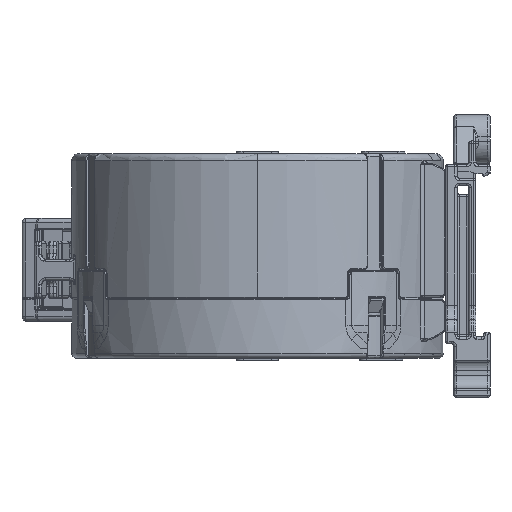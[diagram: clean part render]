
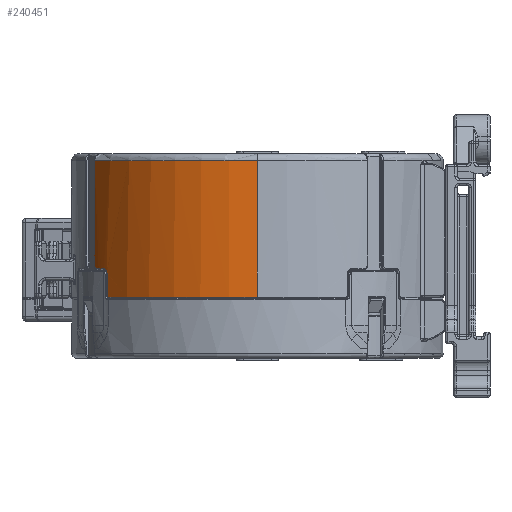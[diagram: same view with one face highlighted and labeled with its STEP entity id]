
A CAD part, left-side view. The second image highlights one B-rep face of the part: STEP entity #240451.
In plain terms, the highlighted cylindrical face has radius 39.75 mm (diameter 79.5 mm), a partial arc.
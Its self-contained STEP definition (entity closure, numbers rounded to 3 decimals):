
#1445 = ORIENTED_EDGE ( 'NONE', *, *, #116800, .F. ) ;
#1826 = EDGE_CURVE ( 'NONE', #68400, #108984, #129404, .T. ) ;
#2189 = CARTESIAN_POINT ( 'NONE',  ( -22.502, 32.768, -24.55 ) ) ;
#3410 = CARTESIAN_POINT ( 'NONE',  ( -23.196, 32.28, -25.026 ) ) ;
#3500 = EDGE_LOOP ( 'NONE', ( #1445, #48041, #21934, #157442, #106195, #93072, #241540, #17294, #40453 ) ) ;
#3899 = EDGE_CURVE ( 'NONE', #96343, #181146, #137368, .T. ) ;
#4368 = VECTOR ( 'NONE', #141027, 1000. ) ;
#4404 = DIRECTION ( 'NONE',  ( 0., 0., 1. ) ) ;
#5490 = DIRECTION ( 'NONE',  ( 0., 0., -1. ) ) ;
#11652 = CIRCLE ( 'NONE', #42868, 39.75 ) ;
#14710 = CARTESIAN_POINT ( 'NONE',  ( -39.75, 0., 0. ) ) ;
#16634 = AXIS2_PLACEMENT_3D ( 'NONE', #142604, #174401, #48732 ) ;
#16832 = CARTESIAN_POINT ( 'NONE',  ( -22.364, 32.862, -24.55 ) ) ;
#17294 = ORIENTED_EDGE ( 'NONE', *, *, #111116, .T. ) ;
#21640 = CARTESIAN_POINT ( 'NONE',  ( -23.052, 32.383, -24.854 ) ) ;
#21934 = ORIENTED_EDGE ( 'NONE', *, *, #164895, .T. ) ;
#23896 = VECTOR ( 'NONE', #189363, 1000. ) ;
#29774 = CARTESIAN_POINT ( 'NONE',  ( 0., 0., 0. ) ) ;
#31503 = CARTESIAN_POINT ( 'NONE',  ( -23.407, 32.127, -30.4 ) ) ;
#32694 = CARTESIAN_POINT ( 'NONE',  ( -23.43, 32.11, -30.532 ) ) ;
#33019 = EDGE_CURVE ( 'NONE', #49847, #125307, #86112, .T. ) ;
#40021 = CARTESIAN_POINT ( 'NONE',  ( -22.998, 32.422, -24.802 ) ) ;
#40453 = ORIENTED_EDGE ( 'NONE', *, *, #1826, .T. ) ;
#42868 = AXIS2_PLACEMENT_3D ( 'NONE', #156852, #4404, #189775 ) ;
#43627 = CARTESIAN_POINT ( 'NONE',  ( -19.617, 34.572, -24.531 ) ) ;
#44539 = DIRECTION ( 'NONE',  ( -1., 0., 0. ) ) ;
#48041 = ORIENTED_EDGE ( 'NONE', *, *, #155112, .T. ) ;
#48437 = CARTESIAN_POINT ( 'NONE',  ( -23.379, 32.148, -25.468 ) ) ;
#48732 = DIRECTION ( 'NONE',  ( 1., 0., 0. ) ) ;
#49847 = VERTEX_POINT ( 'NONE', #161223 ) ;
#53549 = CARTESIAN_POINT ( 'NONE',  ( -39.75, 0., -1.5 ) ) ;
#61895 = CARTESIAN_POINT ( 'NONE',  ( -19.202, 34.805, -24.194 ) ) ;
#62535 = CARTESIAN_POINT ( 'NONE',  ( -19.129, 34.845, 0. ) ) ;
#66428 = CYLINDRICAL_SURFACE ( 'NONE', #160402, 39.75 ) ;
#68400 = VERTEX_POINT ( 'NONE', #86550 ) ;
#73303 = DIRECTION ( 'NONE',  ( 0., 0., -1. ) ) ;
#77492 = DIRECTION ( 'NONE',  ( 1., 0., 0. ) ) ;
#77831 = CARTESIAN_POINT ( 'NONE',  ( -23.274, 32.224, -25.165 ) ) ;
#80168 = CARTESIAN_POINT ( 'NONE',  ( -19.385, 34.703, -24.401 ) ) ;
#82344 = CARTESIAN_POINT ( 'NONE',  ( -19.129, 34.845, -23.8 ) ) ;
#82570 = CARTESIAN_POINT ( 'NONE',  ( -19.702, 34.524, -24.55 ) ) ;
#86112 = LINE ( 'NONE', #123871, #4368 ) ;
#86550 = CARTESIAN_POINT ( 'NONE',  ( -23.614, 31.976, -30.65 ) ) ;
#87254 = CARTESIAN_POINT ( 'NONE',  ( -23.407, 32.127, -30.4 ) ) ;
#88795 = CARTESIAN_POINT ( 'NONE',  ( -23.507, 32.054, -30.624 ) ) ;
#90855 = B_SPLINE_CURVE_WITH_KNOTS ( 'NONE', 3,
 ( #191167, #2189, #114337, #225519, #207171, #40021, #21640, #3410, #77831, #48437, #159418, #122736 ),
 .UNSPECIFIED., .F., .F.,
 ( 4, 2, 2, 2, 2, 4 ),
 ( 0., 0., 0.001, 0.001, 0.001, 0.002 ),
 .UNSPECIFIED. ) ;
#91663 = CIRCLE ( 'NONE', #111086, 39.75 ) ;
#93072 = ORIENTED_EDGE ( 'NONE', *, *, #195763, .T. ) ;
#96343 = VERTEX_POINT ( 'NONE', #82344 ) ;
#106195 = ORIENTED_EDGE ( 'NONE', *, *, #140482, .T. ) ;
#108984 = VERTEX_POINT ( 'NONE', #186499 ) ;
#111086 = AXIS2_PLACEMENT_3D ( 'NONE', #142249, #131092, #77492 ) ;
#111116 = EDGE_CURVE ( 'NONE', #125307, #68400, #189694, .T. ) ;
#114337 = CARTESIAN_POINT ( 'NONE',  ( -22.636, 32.675, -24.582 ) ) ;
#116800 = EDGE_CURVE ( 'NONE', #176521, #108984, #202570, .T. ) ;
#122586 = CARTESIAN_POINT ( 'NONE',  ( -19.129, 34.845, -1.5 ) ) ;
#122736 = CARTESIAN_POINT ( 'NONE',  ( -23.407, 32.127, -25.8 ) ) ;
#123871 = CARTESIAN_POINT ( 'NONE',  ( -23.407, 32.127, 0. ) ) ;
#125307 = VERTEX_POINT ( 'NONE', #87254 ) ;
#125344 = CARTESIAN_POINT ( 'NONE',  ( -23.407, 32.127, -30.467 ) ) ;
#129404 = CIRCLE ( 'NONE', #16634, 39.75 ) ;
#131092 = DIRECTION ( 'NONE',  ( 0., 0., -1. ) ) ;
#136284 = CARTESIAN_POINT ( 'NONE',  ( -19.788, 34.474, -24.55 ) ) ;
#136905 = LINE ( 'NONE', #62535, #23896 ) ;
#137368 = B_SPLINE_CURVE_WITH_KNOTS ( 'NONE', 3,
 ( #137478, #211923, #61895, #80168, #210704, #43627, #82570, #157009 ),
 .UNSPECIFIED., .F., .F.,
 ( 4, 2, 2, 4 ),
 ( 0., 0.001, 0.001, 0.001 ),
 .UNSPECIFIED. ) ;
#137478 = CARTESIAN_POINT ( 'NONE',  ( -19.129, 34.845, -23.8 ) ) ;
#140482 = EDGE_CURVE ( 'NONE', #181146, #204189, #11652, .T. ) ;
#141027 = DIRECTION ( 'NONE',  ( 0., 0., -1. ) ) ;
#142249 = CARTESIAN_POINT ( 'NONE',  ( 0., 0., -1.5 ) ) ;
#142604 = CARTESIAN_POINT ( 'NONE',  ( 0., 0., -30.65 ) ) ;
#155112 = EDGE_CURVE ( 'NONE', #176521, #239279, #91663, .T. ) ;
#156852 = CARTESIAN_POINT ( 'NONE',  ( 0., 0., -24.55 ) ) ;
#157009 = CARTESIAN_POINT ( 'NONE',  ( -19.788, 34.474, -24.55 ) ) ;
#157442 = ORIENTED_EDGE ( 'NONE', *, *, #3899, .T. ) ;
#159418 = CARTESIAN_POINT ( 'NONE',  ( -23.407, 32.127, -25.633 ) ) ;
#160402 = AXIS2_PLACEMENT_3D ( 'NONE', #29774, #5490, #44539 ) ;
#161223 = CARTESIAN_POINT ( 'NONE',  ( -23.407, 32.127, -25.8 ) ) ;
#164895 = EDGE_CURVE ( 'NONE', #239279, #96343, #136905, .T. ) ;
#174401 = DIRECTION ( 'NONE',  ( 0., 0., 1. ) ) ;
#176521 = VERTEX_POINT ( 'NONE', #53549 ) ;
#181146 = VERTEX_POINT ( 'NONE', #136284 ) ;
#186499 = CARTESIAN_POINT ( 'NONE',  ( -39.75, 0., -30.65 ) ) ;
#189363 = DIRECTION ( 'NONE',  ( 0., 0., -1. ) ) ;
#189694 = B_SPLINE_CURVE_WITH_KNOTS ( 'NONE', 3,
 ( #31503, #125344, #32694, #88795, #219373, #202251 ),
 .UNSPECIFIED., .F., .F.,
 ( 4, 2, 4 ),
 ( 0., 0., 0. ),
 .UNSPECIFIED. ) ;
#189775 = DIRECTION ( 'NONE',  ( -1., 0., 0. ) ) ;
#191167 = CARTESIAN_POINT ( 'NONE',  ( -22.364, 32.862, -24.55 ) ) ;
#195763 = EDGE_CURVE ( 'NONE', #204189, #49847, #90855, .T. ) ;
#202251 = CARTESIAN_POINT ( 'NONE',  ( -23.614, 31.976, -30.65 ) ) ;
#202570 = LINE ( 'NONE', #14710, #232230 ) ;
#204189 = VERTEX_POINT ( 'NONE', #16832 ) ;
#207171 = CARTESIAN_POINT ( 'NONE',  ( -22.885, 32.501, -24.712 ) ) ;
#210704 = CARTESIAN_POINT ( 'NONE',  ( -19.458, 34.662, -24.456 ) ) ;
#211923 = CARTESIAN_POINT ( 'NONE',  ( -19.129, 34.845, -23.999 ) ) ;
#212842 = FACE_OUTER_BOUND ( 'NONE', #3500, .T. ) ;
#219373 = CARTESIAN_POINT ( 'NONE',  ( -23.56, 32.016, -30.65 ) ) ;
#225519 = CARTESIAN_POINT ( 'NONE',  ( -22.825, 32.543, -24.675 ) ) ;
#232230 = VECTOR ( 'NONE', #73303, 1000. ) ;
#239279 = VERTEX_POINT ( 'NONE', #122586 ) ;
#240451 = ADVANCED_FACE ( 'NONE', ( #212842 ), #66428, .T. ) ;
#241540 = ORIENTED_EDGE ( 'NONE', *, *, #33019, .T. ) ;
